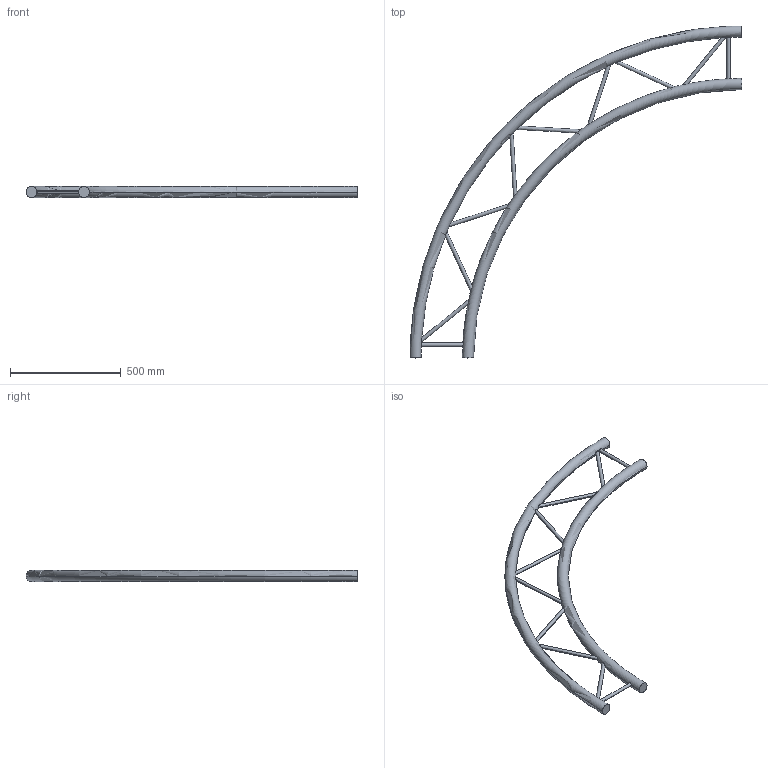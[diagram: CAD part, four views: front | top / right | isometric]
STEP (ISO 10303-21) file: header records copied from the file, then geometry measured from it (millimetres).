
FILE_DESCRIPTION (( 'STEP AP203' ), '1' );
FILE_NAME ('EXC29300H.STEP', '2009-10-26T09:34:33', ( 'CEDIA' ), ( 'CEDIA INDUSTRIE' ), 'SwSTEP 2.0', 'SolidWorks 2009', '' );
FILE_SCHEMA (( 'CONFIG_CONTROL_DESIGN' ));
Length unit declared in the file: millimetre
Products named in the file (1): EXC29300H
Bounding box: 1500 x 1500 x 50 mm (x, y, z)
Volume: 8881397.9 mm3; surface area: 800545.4 mm2
Topology: 1 solids, 1 shells, 28 faces, 92 edges, 48 vertices
Faces by surface type: cylinder 20, torus 4, plane 4
Entity records: 2856 total; most frequent: CARTESIAN_POINT 2024, ORIENTED_EDGE 184, DIRECTION 142, EDGE_CURVE 92, AXIS2_PLACEMENT_3D 61, VERTEX_POINT 48, B_SPLINE_CURVE_WITH_KNOTS 40, CIRCLE 32
